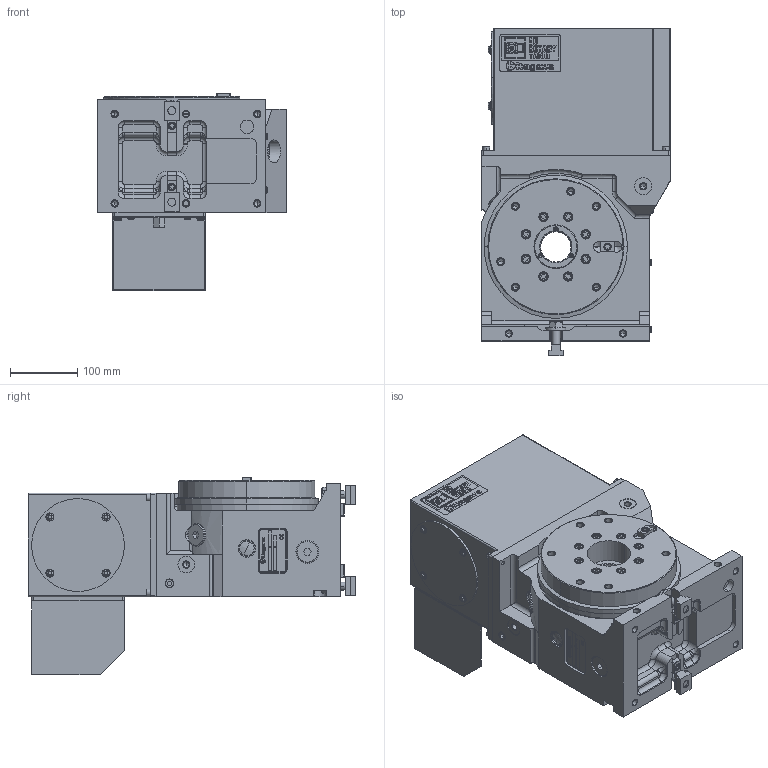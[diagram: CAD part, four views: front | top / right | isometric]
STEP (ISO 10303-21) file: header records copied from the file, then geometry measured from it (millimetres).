
FILE_DESCRIPTION (( 'STEP AP214' ), '1' );
FILE_NAME ('MRT200AF.STEP', '2020-02-27T06:30:19', ( '' ), ( '' ), 'SwSTEP 2.0', 'SolidWorks 2017', '' );
FILE_SCHEMA (( 'AUTOMOTIVE_DESIGN' ));
Length unit declared in the file: millimetre
Products named in the file (18): 僇僶乕丂俹(61E4458433)MR250RAM01; キタガワシール; SMC KQ2E06-02; モータケース(61E2665240)MRT200AF02; MRT200A00僋儈僞僥(61E500941); ガイドブロック(61M4198752); ネームプレートMRT; 僠僃僢僋僶儖僽丂CVR01-A-10W; オイルゲージ 257; 僣僶僣僉僾儔僌GFO M20x1.5; フランジ(61E3628825)_OV; テーブル(61E8395650)_OV; MRT200ベース_OV; MRT200AF; CLAMPING PARTS(61E467583)結合; MRT200AF01儂儞僞僀; コネクタカバー（61E3639910）; コネクタプレート（61E4471133）MR200LAF04
Assembly tree (22 placements, depth 4):
  MRT200AF
    MRT200AF01儂儞僞僀
      MRT200A00僋儈僞僥(61E500941)
        MRT200ベース_OV
        テーブル(61E8395650)_OV
        フランジ(61E3628825)_OV
        僣僶僣僉僾儔僌GFO M20x1.5  x4
        オイルゲージ 257
        僠僃僢僋僶儖僽丂CVR01-A-10W
        ネームプレートMRT
        ガイドブロック(61M4198752)  x2
      モータケース(61E2665240)MRT200AF02
      SMC KQ2E06-02
      キタガワシール
      僇僶乕丂俹(61E4458433)MR250RAM01
      コネクタプレート（61E4471133）MR200LAF04
      コネクタカバー（61E3639910）
    CLAMPING PARTS(61E467583)結合  x2
Bounding box: 280 x 487 x 294 mm (x, y, z)
Volume: 17852860 mm3; surface area: 1061742.1 mm2
Topology: 24 solids, 24 shells, 4306 faces, 11584 edges, 7534 vertices
Faces by surface type: plane 3283, cylinder 654, cone 272, torus 66, bspline 28, sphere 3
Entity records: 140869 total; most frequent: CARTESIAN_POINT 24070, ORIENTED_EDGE 22310, DIRECTION 20944, EDGE_CURVE 11155, LINE 9556, VECTOR 9556, VERTEX_POINT 7322, AXIS2_PLACEMENT_3D 5694
